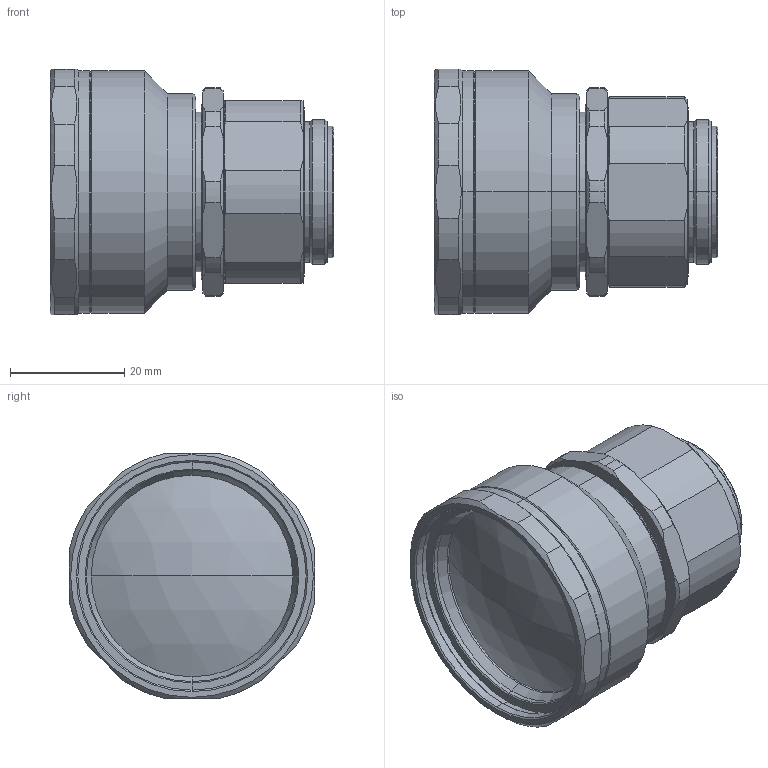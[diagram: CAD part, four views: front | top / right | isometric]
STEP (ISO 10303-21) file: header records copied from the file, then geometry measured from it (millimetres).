
FILE_DESCRIPTION (( 'STEP AP203' ), '1' );
FILE_NAME ('VS-MC50H1.STEP', '2018-12-27T02:20:50', ( '' ), ( '' ), 'SwSTEP 2.0', 'SolidWorks 2018', '' );
FILE_SCHEMA (( 'CONFIG_CONTROL_DESIGN' ));
Length unit declared in the file: millimetre
Products named in the file (1): VS-MC50H1
Bounding box: 49.7 x 43 x 43 mm (x, y, z)
Volume: 55595 mm3; surface area: 13189.5 mm2
Topology: 2 solids, 2 shells, 173 faces, 418 edges, 261 vertices
Faces by surface type: cone 76, cylinder 57, plane 36, sphere 4
Entity records: 5330 total; most frequent: CARTESIAN_POINT 1205, DIRECTION 877, ORIENTED_EDGE 836, EDGE_CURVE 418, AXIS2_PLACEMENT_3D 361, VERTEX_POINT 261, CIRCLE 187, EDGE_LOOP 185
